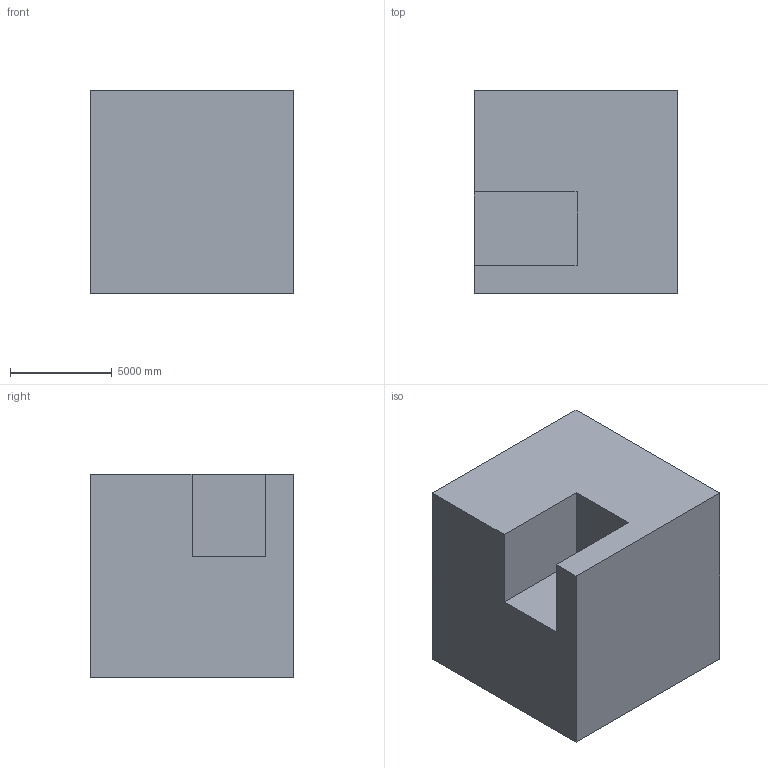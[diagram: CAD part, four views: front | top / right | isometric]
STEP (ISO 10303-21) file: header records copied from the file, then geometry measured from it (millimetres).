
FILE_DESCRIPTION (( 'STEP AP203' ), '1' );
FILE_NAME ('1110.STEP', '2022-08-25T14:43:05', ( 'user' ), ( '' ), 'SwSTEP 2.0', 'SolidWorks 2021', '' );
FILE_SCHEMA (( 'CONFIG_CONTROL_DESIGN' ));
Length unit declared in the file: centimetre
Products named in the file (1): 1110
Bounding box: 10000 x 10000 x 10000 mm (x, y, z)
Volume: 887419917906.3 mm3; surface area: 700567450.6 mm2
Topology: 1 solids, 1 shells, 13 faces, 30 edges, 20 vertices
Faces by surface type: plane 11, cylinder 2
Entity records: 445 total; most frequent: CARTESIAN_POINT 64, DIRECTION 62, ORIENTED_EDGE 60, EDGE_CURVE 30, VECTOR 26, LINE 26, VERTEX_POINT 20, AXIS2_PLACEMENT_3D 18
